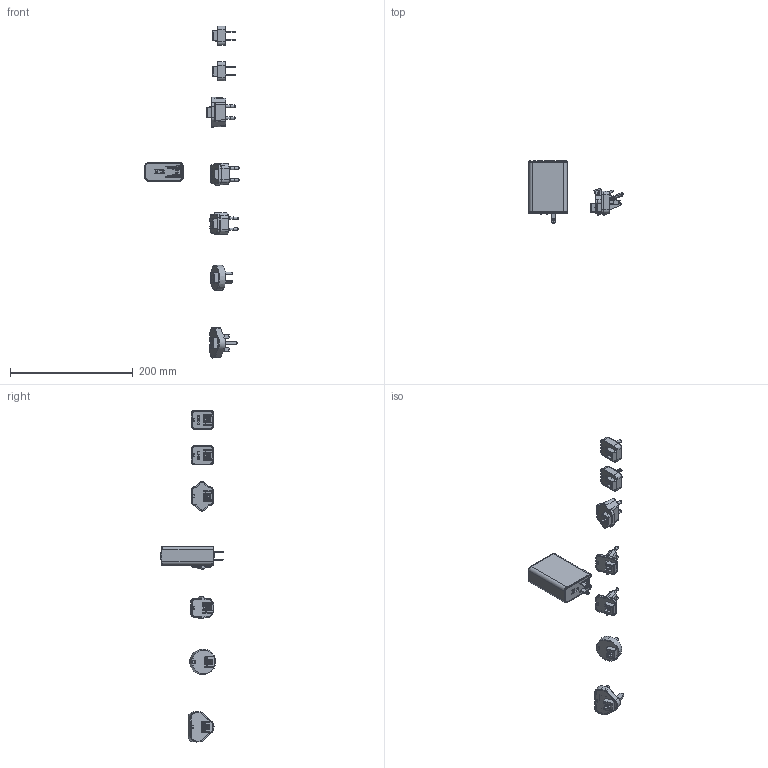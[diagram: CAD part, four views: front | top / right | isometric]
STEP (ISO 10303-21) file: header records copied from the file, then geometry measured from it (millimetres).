
FILE_DESCRIPTION(('Creo Elements/Direct Modeling STEP Export'),'2;1');
FILE_NAME('NGE100.stp','2025-09-30T11:03:10',(''),(''),'Creo Elements/Direct Modeling STEP processor for AP214 (Solid Model)','Creo Elements/Direct Modeling 19.0G 27-Nov-2017 (C) Parametric Technology GmbH','');
FILE_SCHEMA(('AUTOMOTIVE_DESIGN { 1 0 10303 214 1 1 1 1 }'));
Length unit declared in the file: millimetre
Products named in the file (297): _X2_96F64EF6_X0_1.PRT; ZHAOFAA4CA11JC19_1_PRT_PRT_PRT_.PRT; ZHAOFAA4CA11JC19_2_PRT_PRT_PRT_.PRT; ZHAOFAA4CA11JC19_3_PRT_PRT_PRT_.PRT; ZHAOFAA4CA11JC19_4_PRT_PRT_PRT_.PRT; ZHAOFAA4CA11JC19_5_PRT_PRT_PRT_.PRT; ZHAOFAA4CA11JC19_ASM_ASM_ASM_AS.ASM; EU_1__STP_ASM_ASM_ASM_ASM_ASM.ASM; _X2_96F64EF6_X0_7_PRT_PRT-12340.PRT; _X2_96F64EF6_X0_7_PRT_PRT-12670.ASM; _X2_96F64EF6_X0_6_PRT_PRT-25020.PRT; _X2_96F64EF6_X0_6_PRT_PRT-25350.ASM; _X2_96F64EF6_X0_4_PRT_PRT-37700.PRT; _X2_96F64EF6_X0_4_PRT_PRT-38030.ASM; _X2_96F64EF6_X0_3_PRT_PRT-50380.PRT; _X2_96F64EF6_X0_3_PRT_PRT-50710.ASM; _X2_96F64EF6_X0_2_PRT_PRT-67280.PRT; _X2_96F64EF6_X0_2_PRT_PRT-67610.ASM; _X2_96F64EF6_X0_1_PRT_P--174510.PRT; _X2_96F64EF6_X0_1_PRT_P--177310.ASM; _X2_5F397247_X0_2_PRT_PR-189200.PRT; _X2_5F397247_X0_2_PRT_PR-189530.ASM; _X2_5F397247_X0_-195600_-201420.PRT; _X2_5F397247_X0_-195600_-201750.ASM; _X2_540E76D6_X0__PRT_PRT-320290.PRT; _X2_540E76D6_X0__PRT_PRT-323730.ASM; ZHAO54408073H96W_7_PRT_P-331140.PRT; ZHAO54408073H96W_7_PRT_P-331470.ASM; ZHAO54408073H96W_15_PRT_-338880.PRT; ZHAO54408073H96W_15_PRT_-339210.ASM; ZHAO54408073H96W_14_PRT_-516360.PRT; ZHAO54408073H96W_14_PRT_-521310.ASM; ZHAO54408073H96W_12_PRT_-530400.PRT; ZHAO54408073H96W_12_PRT_-530730.ASM; ZHAO54408073H96W_11_PRT_-541780.PRT; ZHAO54408073H96W_11_PRT_-542390.ASM; ZHAO54408073H96W_10_PRT_-637920.PRT; ZHAO54408073H96W_10_PRT_-640030.ASM; ZHAO4A584105HRA6_3_PRT_P-826090.PRT; ZHAO4A584105HRA6_3_PRT_P-827980.ASM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
Assembly tree (312 placements, depth 23):
  ____-20250928.stp
    NGE____-20250918_STP.ASM
      _X2_96F64EF6_X0_1_PRT.PRT
      NGE____-20250726_STP_ASM.ASM
        321_STP_ASM_ASM.ASM
          _X2_97627EC4_X0__1-247910_ASM_A.ASM
            _X2_97627EC4_X0__1-241300_PRT_P.PRT
        MW2025001__-25_7_24_STP_ASM_ASM.ASM
          ADMI3E441977U5M5_PRT-2122310_PR.PRT
        MW2025001__-25_7_24_STP_1_ASM_A.ASM
          ADMI3E441977U5M5_PRT-2029300_PR.PRT
        NGE____-20250627_STP_ASM_ASM.ASM
          _X2_96F64EF6_X0_1_PRT_PRT_PRT.PRT
          NGE____-20250624_STP_ASM_ASM_AS.ASM
            NGE_____STP_ASM_ASM_ASM_ASM.ASM
              _X2_96F64EF6_X0_1_PRT_PRT_PRT_P.PRT
              NGE____-20250618_STP_ASM_ASM_AS.ASM
                ZHAO1E64C46CAO2S_20_PRT-1438860.ASM
                  ZHAO1E64C46CAO2S_20_PRT-1436130.PRT
                NGE____-20250527_STP_ASM_ASM_AS.ASM
                  _X2_96F64EF6_X0_1_PRT_PRT-97070.PRT
                  NGE____-20250527_STP_ASM-534480.ASM
                ZHAO1E64C46CAO2S_5_PRT_P-190810.ASM
                  ZHAO1E64C46CAO2S_5_PRT_P-190340.PRT
                _X2_96F64EF6_X0_1_PRT_PR-536450.PRT
              NGE____-20250524_STP_ASM_ASM_AS.ASM
                ADMI2C6073B82TSY_13_PRT-1827950.PRT
                ADMI2C6073B82TSY_18_PRT-1780910.ASM
                  ADMI2C6073B82TSY_18_PRT-1780520.PRT
                ADMI2C6073B82TSY_19_PRT-1771150.ASM
                  ADMI2C6073B82TSY_19_PRT-1770760.PRT
                PIN_PRT_PRT_PRT_PRT_PRT-1761390.ASM
                  PIN_PRT_PRT_PRT_PRT_PRT-1761060.PRT
                SSSQAA-231490_PRT_PRT_P-1747390.ASM
                  SSSQAA-231490_PRT_PRT_P-1747060.PRT
                SSSQAA-231490_PRT_PRT_P-1736170.ASM
                  SSSQAA-231490_PRT_PRT_P-1735840.PRT
                SSSQAAQQ-250940_PRT_PRT-1724950.ASM
                  SSSQAAQQ-250940_PRT_PRT-1724620.PRT
                SSSQAAQQ-250940_PRT_PRT-1713730.ASM
                  SSSQAAQQ-250940_PRT_PRT-1713400.PRT
                XX_1_PRT_PRT_PRT_PRT_PR-1702510.ASM
                  XX_1_PRT_PRT_PRT_PRT_PR-1702180.PRT
                XX_PRT_PRT_PRT_PRT_PRT_-1690990.PRT
                X_1-398720_PRT_PRT_PRT_-1678310.ASM
                  X_1-398720_PRT_PRT_PRT_-1677980.PRT
                X_1-447760_PRT_PRT_PRT_-1666790.PRT
                ZHAO1E64C46CAO2S_10_PRT-1654110.ASM
                  ZHAO1E64C46CAO2S_10_PRT-1653780.PRT
                ZHAO1E64C46CAO2S_11_PRT-1644870.ASM
                  ZHAO1E64C46CAO2S_11_PRT-1644540.PRT
                ZHAO1E64C46CAO2S_16_PRT-1635630.PRT
                ZHAO1E64C46CAO2S_19_PRT-1610280.PRT
                ZHAO1E64C46CAO2S_19_PRT-1522530.ASM
                  ZHAO1E64C46CAO2S_19_PRT-1520170.PRT
                ADMI2C6073B82TSY_12_PRT-1920830.PRT
                ZHAO1E64C46CAO2S_3_PRT_-1342720.ASM
                  ZHAO1E64C46CAO2S_3_PRT_-1336520.PRT
                ZHAO1E64C46CAO2S_5_PRT_-1065660.ASM
                  ZHAO1E64C46CAO2S_5_PRT_-1059460.PRT
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Bounding box: 153.22 x 101.25 x 540.2 mm (x, y, z)
Volume: 119731 mm3; surface area: 145051.2 mm2
Topology: 91 solids, 93 shells, 10066 faces, 29333 edges, 19614 vertices
Faces by surface type: plane 6415, cylinder 2387, bspline 388, cone 301, extrusion 225, torus 200, sphere 149, revolution 1
Entity records: 335955 total; most frequent: CARTESIAN_POINT 77138, ORIENTED_EDGE 45770, DIRECTION 39765, EDGE_CURVE 22893, VECTOR 16648, LINE 16427, VERTEX_POINT 15203, AXIS2_PLACEMENT_3D 11558
